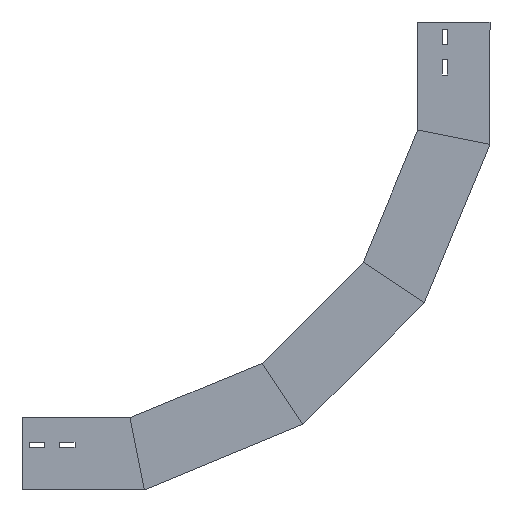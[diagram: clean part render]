
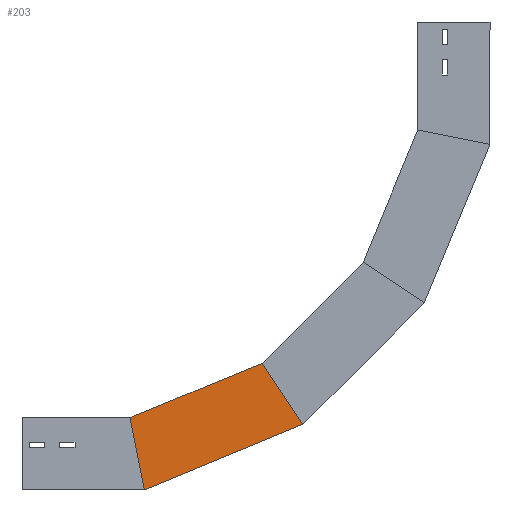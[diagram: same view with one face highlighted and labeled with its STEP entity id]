
A CAD part, left-side view. The second image highlights one B-rep face of the part: STEP entity #203.
In plain terms, the highlighted planar face has unit normal (-1, 0, 0) as drawn and (1, 0, 0) by its records, which use the part's own axes.
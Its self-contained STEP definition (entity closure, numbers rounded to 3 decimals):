
#14 = CARTESIAN_POINT ( 'NONE',  ( 0., 92.388, -131.332 ) ) ;
#29 = EDGE_LOOP ( 'NONE', ( #740, #1619, #1039, #1526 ) ) ;
#57 = VECTOR ( 'NONE', #1701, 1000. ) ;
#69 = VECTOR ( 'NONE', #1612, 1000. ) ;
#133 = CARTESIAN_POINT ( 'NONE',  ( 0., 0., -169.6 ) ) ;
#203 = ADVANCED_FACE ( 'NONE', ( #1254 ), #973, .F. ) ;
#252 = VERTEX_POINT ( 'NONE', #862 ) ;
#350 = EDGE_CURVE ( 'NONE', #1370, #386, #1036, .T. ) ;
#386 = VERTEX_POINT ( 'NONE', #1451 ) ;
#546 = AXIS2_PLACEMENT_3D ( 'NONE', #1263, #1290, #1109 ) ;
#602 = CARTESIAN_POINT ( 'NONE',  ( 0., 0., -169.6 ) ) ;
#604 = VECTOR ( 'NONE', #1233, 1000. ) ;
#650 = CARTESIAN_POINT ( 'NONE',  ( 0., 129.74, -363.769 ) ) ;
#675 = EDGE_CURVE ( 'NONE', #252, #1601, #1158, .T. ) ;
#740 = ORIENTED_EDGE ( 'NONE', *, *, #675, .F. ) ;
#862 = CARTESIAN_POINT ( 'NONE',  ( 0., 100., -149.709 ) ) ;
#973 = PLANE ( 'NONE',  #546 ) ;
#1036 = LINE ( 'NONE', #602, #1752 ) ;
#1039 = ORIENTED_EDGE ( 'NONE', *, *, #350, .T. ) ;
#1109 = DIRECTION ( 'NONE',  ( 0., 0., 1. ) ) ;
#1158 = LINE ( 'NONE', #14, #69 ) ;
#1233 = DIRECTION ( 'NONE',  ( 0., -0.831, -0.556 ) ) ;
#1254 = FACE_OUTER_BOUND ( 'NONE', #29, .T. ) ;
#1263 = CARTESIAN_POINT ( 'NONE',  ( 0., 0., -169.6 ) ) ;
#1290 = DIRECTION ( 'NONE',  ( -1., 0., 0. ) ) ;
#1370 = VERTEX_POINT ( 'NONE', #133 ) ;
#1382 = EDGE_CURVE ( 'NONE', #252, #1370, #1427, .T. ) ;
#1427 = LINE ( 'NONE', #1452, #57 ) ;
#1451 = CARTESIAN_POINT ( 'NONE',  ( 0., 91.117, -389.576 ) ) ;
#1452 = CARTESIAN_POINT ( 'NONE',  ( 0., 32.452, -163.145 ) ) ;
#1487 = DIRECTION ( 'NONE',  ( 0., 0.383, -0.924 ) ) ;
#1526 = ORIENTED_EDGE ( 'NONE', *, *, #1695, .F. ) ;
#1601 = VERTEX_POINT ( 'NONE', #1676 ) ;
#1612 = DIRECTION ( 'NONE',  ( 0., 0.383, -0.924 ) ) ;
#1619 = ORIENTED_EDGE ( 'NONE', *, *, #1382, .T. ) ;
#1676 = CARTESIAN_POINT ( 'NONE',  ( 0., 175.893, -332.93 ) ) ;
#1689 = LINE ( 'NONE', #650, #604 ) ;
#1695 = EDGE_CURVE ( 'NONE', #1601, #386, #1689, .T. ) ;
#1701 = DIRECTION ( 'NONE',  ( 0., -0.981, -0.195 ) ) ;
#1752 = VECTOR ( 'NONE', #1487, 1000. ) ;
